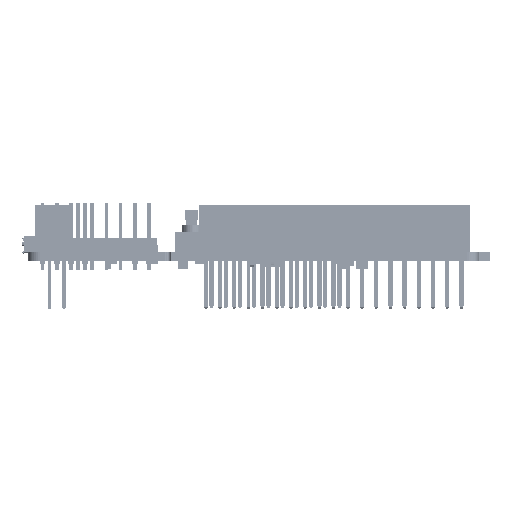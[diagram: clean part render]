
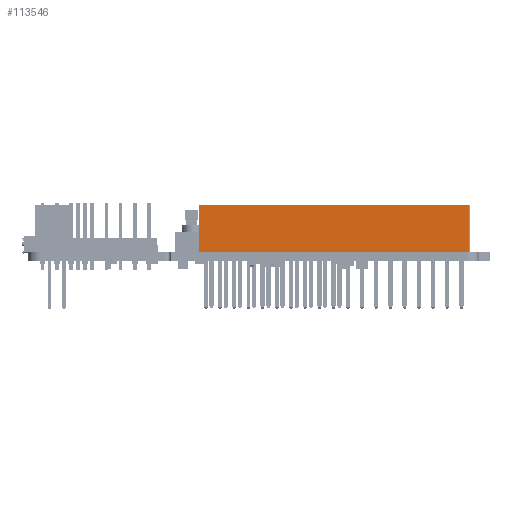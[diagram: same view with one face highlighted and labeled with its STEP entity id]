
A CAD part, left-side view. The second image highlights one B-rep face of the part: STEP entity #113546.
In plain terms, the highlighted planar face has unit normal (-1, 0, 0).
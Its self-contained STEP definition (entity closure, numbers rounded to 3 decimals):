
#113448 = EDGE_CURVE('',#113449,#113451,#113453,.T.);
#113449 = VERTEX_POINT('',#113450);
#113450 = CARTESIAN_POINT('',(-2.545,24.132,0.));
#113451 = VERTEX_POINT('',#113452);
#113452 = CARTESIAN_POINT('',(-2.545,24.132,8.38));
#113453 = LINE('',#113454,#113455);
#113454 = CARTESIAN_POINT('',(-2.545,24.132,0.));
#113455 = VECTOR('',#113456,1.);
#113456 = DIRECTION('',(0.,0.,1.));
#113521 = VERTEX_POINT('',#113522);
#113522 = CARTESIAN_POINT('',(-2.545,-24.132,8.38));
#113528 = EDGE_CURVE('',#113529,#113521,#113531,.T.);
#113529 = VERTEX_POINT('',#113530);
#113530 = CARTESIAN_POINT('',(-2.545,-24.132,0.));
#113531 = LINE('',#113532,#113533);
#113532 = CARTESIAN_POINT('',(-2.545,-24.132,0.));
#113533 = VECTOR('',#113534,1.);
#113534 = DIRECTION('',(0.,0.,1.));
#113546 = ADVANCED_FACE('',(#113547),#113563,.T.);
#113547 = FACE_BOUND('',#113548,.T.);
#113548 = EDGE_LOOP('',(#113549,#113550,#113556,#113557));
#113549 = ORIENTED_EDGE('',*,*,#113528,.T.);
#113550 = ORIENTED_EDGE('',*,*,#113551,.T.);
#113551 = EDGE_CURVE('',#113521,#113451,#113552,.T.);
#113552 = LINE('',#113553,#113554);
#113553 = CARTESIAN_POINT('',(-2.545,-24.132,8.38));
#113554 = VECTOR('',#113555,1.);
#113555 = DIRECTION('',(0.,1.,0.));
#113556 = ORIENTED_EDGE('',*,*,#113448,.F.);
#113557 = ORIENTED_EDGE('',*,*,#113558,.F.);
#113558 = EDGE_CURVE('',#113529,#113449,#113559,.T.);
#113559 = LINE('',#113560,#113561);
#113560 = CARTESIAN_POINT('',(-2.545,-24.132,0.));
#113561 = VECTOR('',#113562,1.);
#113562 = DIRECTION('',(0.,1.,0.));
#113563 = PLANE('',#113564);
#113564 = AXIS2_PLACEMENT_3D('',#113565,#113566,#113567);
#113565 = CARTESIAN_POINT('',(-2.545,-24.132,0.));
#113566 = DIRECTION('',(-1.,0.,0.));
#113567 = DIRECTION('',(0.,1.,0.));
